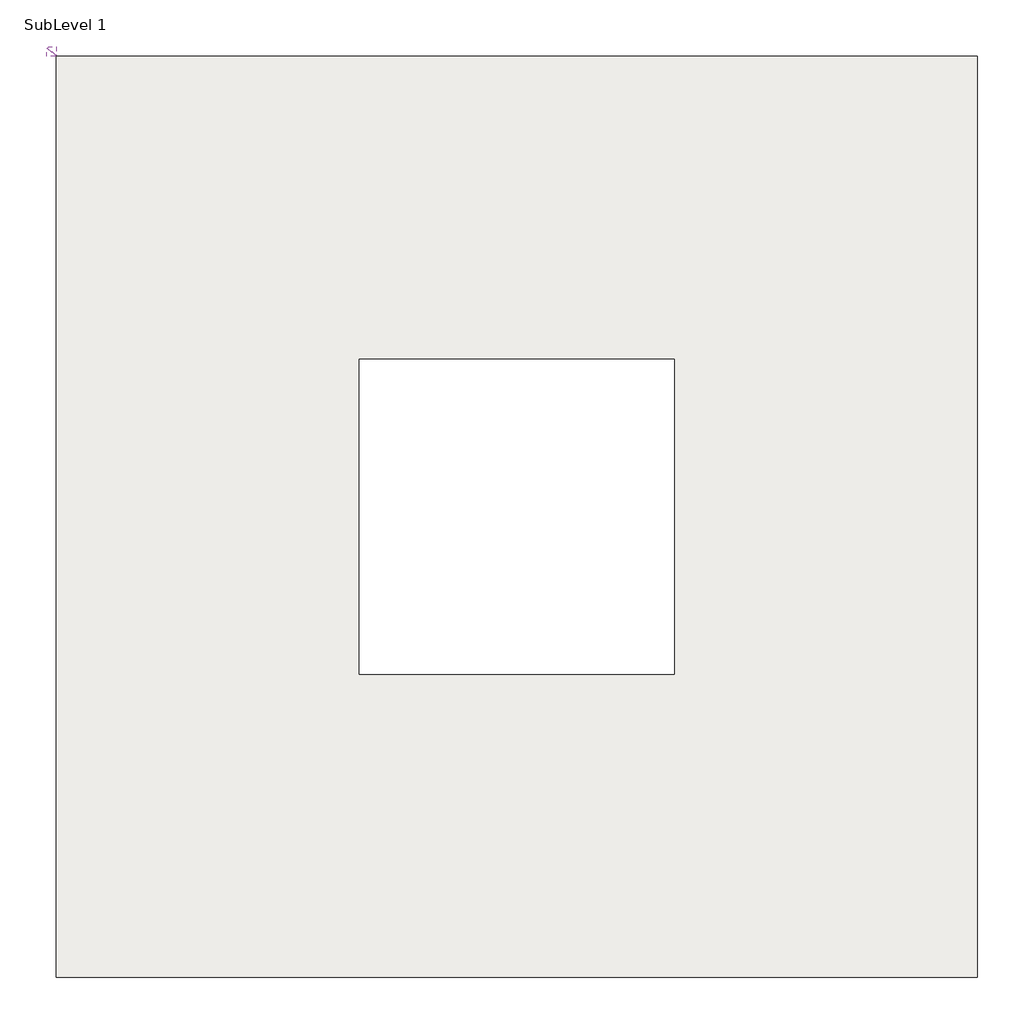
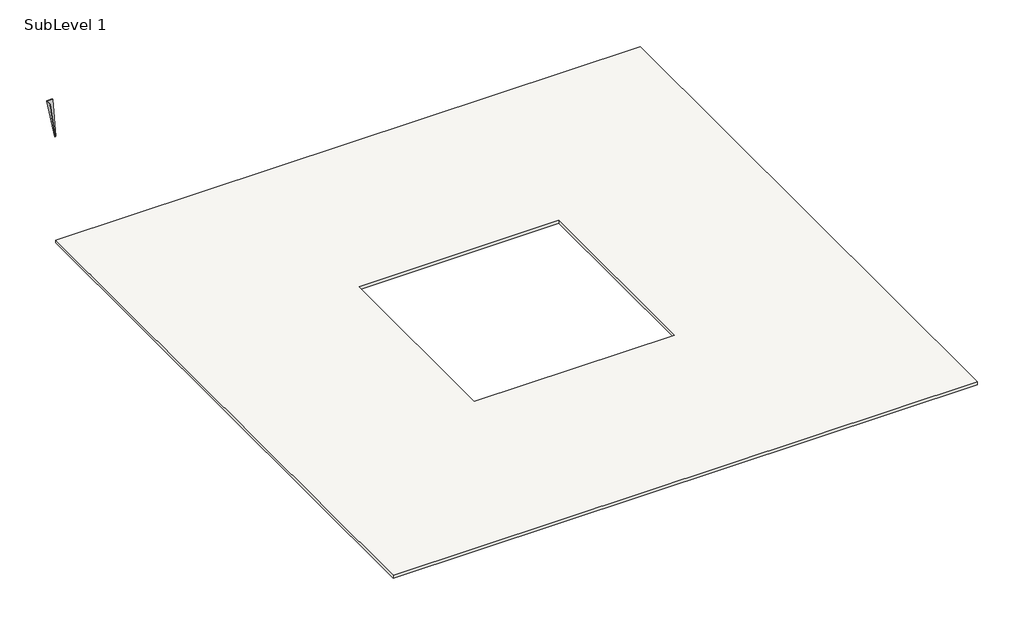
# One storey, incomplete: 2 plates, 1 slab.
"""IFC4 building model written with IfcOpenShell, lengths in millimetres."""

from ifc_helpers import new_model, si_unit, frame, origin, place, context, project, spatial, polyline, outline, extrude, transform, mapped, element, save
from components import system_panel_glazed_710431b8, system_panel_glazed_62e18998

model = new_model("IFC4")

# Units and contexts
model_context = context("Model", 3, world=origin())
ifc_project = project(units=[si_unit("LENGTHUNIT", "METRE", prefix="MILLI")], contexts=[model_context])

# Site, building, storey
site = spatial("IfcSite", under=ifc_project)
building = spatial("IfcBuilding", under=site)
storey = spatial("IfcBuildingStorey", under=building, Name="SubLevel 1", Elevation=-4572.0)

# Plates
placement = place(None, origin())
system_panel_glazed_shape = system_panel_glazed_710431b8(model_context)
element("IfcPlate", 1, ObjectType="System Panel : Glazed", at=placement, inside=storey, context=model_context, shape_type="MappedRepresentation", body=[
    mapped(system_panel_glazed_shape, transform((-15974.725373, 11822.6291012, 0.0), x_axis=(1.0, 0.0, 0.0), y_axis=(0.0, 0.9898065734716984, -0.1424182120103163), z_axis=(0.0, 0.1424182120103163, 0.9898065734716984))),
])
system_panel_glazed_2_shape = system_panel_glazed_62e18998(model_context)
element("IfcPlate", 2, ObjectType="System Panel : Glazed", at=placement, inside=storey, context=model_context, shape_type="MappedRepresentation", body=[
    mapped(system_panel_glazed_2_shape, transform((-15866.2026957, 11931.1517787, 0.0), x_axis=(0.0, 1.0, 0.0), y_axis=(-0.9898065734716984, 0.0, -0.1424182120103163), z_axis=(-0.1424182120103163, 0.0, 0.9898065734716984))),
])

# Slab
element("IfcSlab", 3, ObjectType="3\" LW Concrete on 2\" Metal Deck", at=placement, inside=storey, context=model_context, shape_type="SweptSolid", body=[
    extrude(outline(polyline([(8517.7973043, 11822.6291012), (8517.7973043, -12561.3708988), (-15866.2026957, -12561.3708988), (-15866.2026957, 11822.6291012), (8517.7973043, 11822.6291012)]), holes=[polyline([(-7844.5651957, 3800.9916012), (-7844.5651957, -4539.7333988), (496.1598043, -4539.7333988), (496.1598043, 3800.9916012), (-7844.5651957, 3800.9916012)])]), frame((0.0, 0.0, -4699.0), z_axis=(0.0, 0.0, 1.0), x_axis=(1.0, 0.0, 0.0)), (0.0, 0.0, 1.0), 127.0),
])

save(model, "model.ifc")
